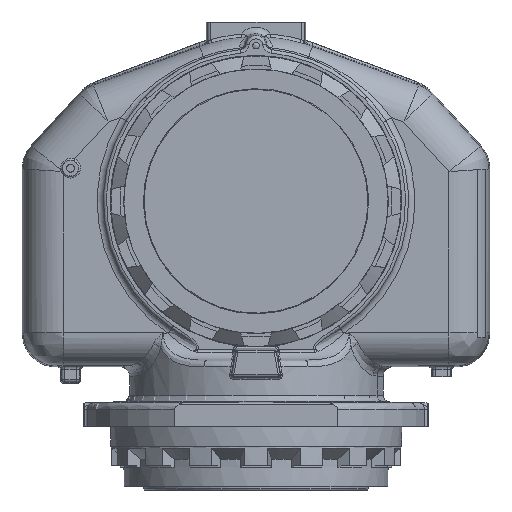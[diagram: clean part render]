
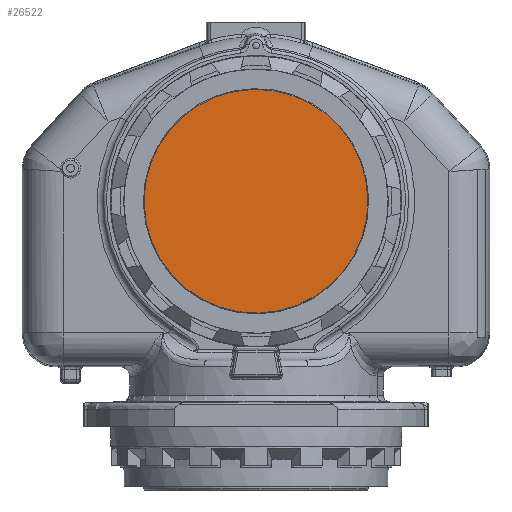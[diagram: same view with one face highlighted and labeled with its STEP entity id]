
A CAD part, front view. The second image highlights one B-rep face of the part: STEP entity #26522.
In plain terms, the highlighted planar face has unit normal (0, -1, 0).
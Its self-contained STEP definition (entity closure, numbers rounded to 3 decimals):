
#3392 = EDGE_CURVE ( 'NONE', #34451, #34451, #28361, .T. ) ;
#5163 = PLANE ( 'NONE',  #16992 ) ;
#5411 = FACE_OUTER_BOUND ( 'NONE', #8308, .T. ) ;
#7907 = CARTESIAN_POINT ( 'NONE',  ( 0., -231., 250. ) ) ;
#8308 = EDGE_LOOP ( 'NONE', ( #11546 ) ) ;
#10659 = DIRECTION ( 'NONE',  ( 0., 1., 0. ) ) ;
#11546 = ORIENTED_EDGE ( 'NONE', *, *, #3392, .T. ) ;
#15553 = CARTESIAN_POINT ( 'NONE',  ( 0., -231., 250. ) ) ;
#16992 = AXIS2_PLACEMENT_3D ( 'NONE', #7907, #10659, #29698 ) ;
#17603 = AXIS2_PLACEMENT_3D ( 'NONE', #15553, #34669, #18270 ) ;
#18270 = DIRECTION ( 'NONE',  ( 0.195, 0., -0.981 ) ) ;
#21141 = CARTESIAN_POINT ( 'NONE',  ( 32.963, -231., 84.286 ) ) ;
#26522 = ADVANCED_FACE ( 'NONE', ( #5411 ), #5163, .F. ) ;
#28361 = CIRCLE ( 'NONE', #17603, 168.961 ) ;
#29698 = DIRECTION ( 'NONE',  ( -0.195, 0., 0.981 ) ) ;
#34451 = VERTEX_POINT ( 'NONE', #21141 ) ;
#34669 = DIRECTION ( 'NONE',  ( 0., -1., 0. ) ) ;
